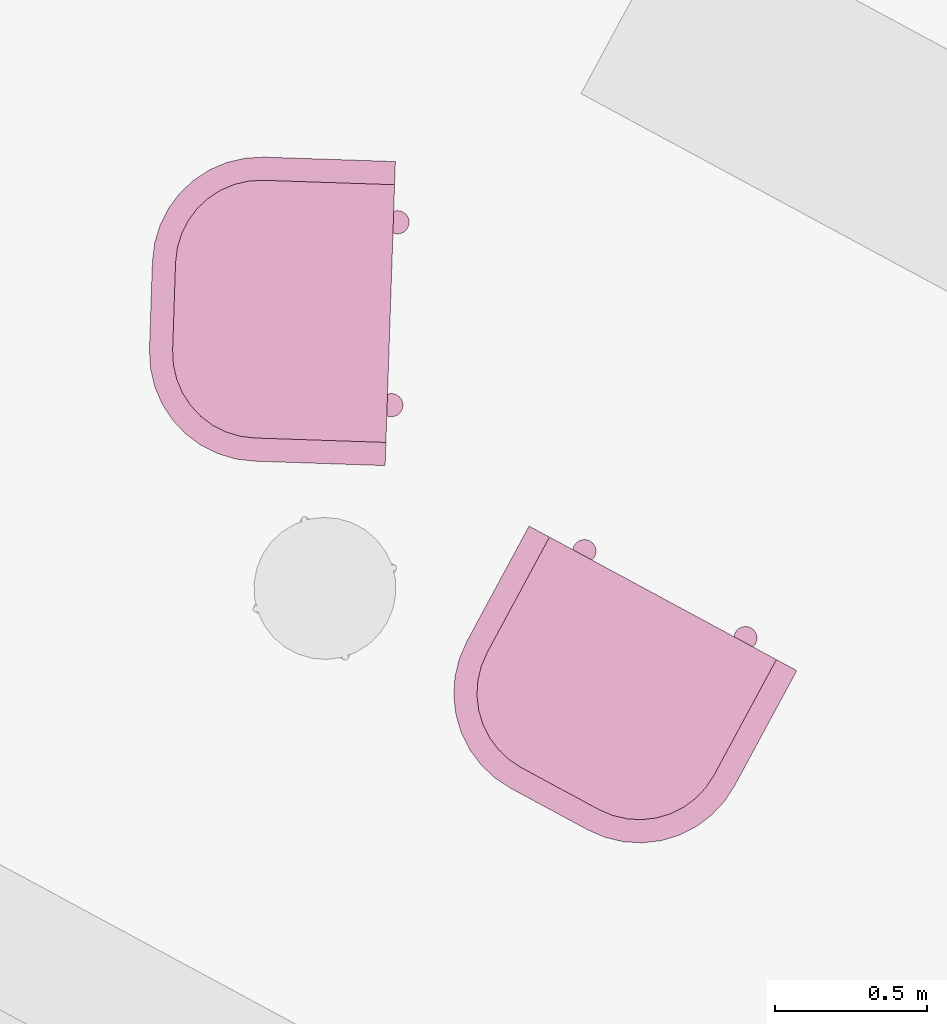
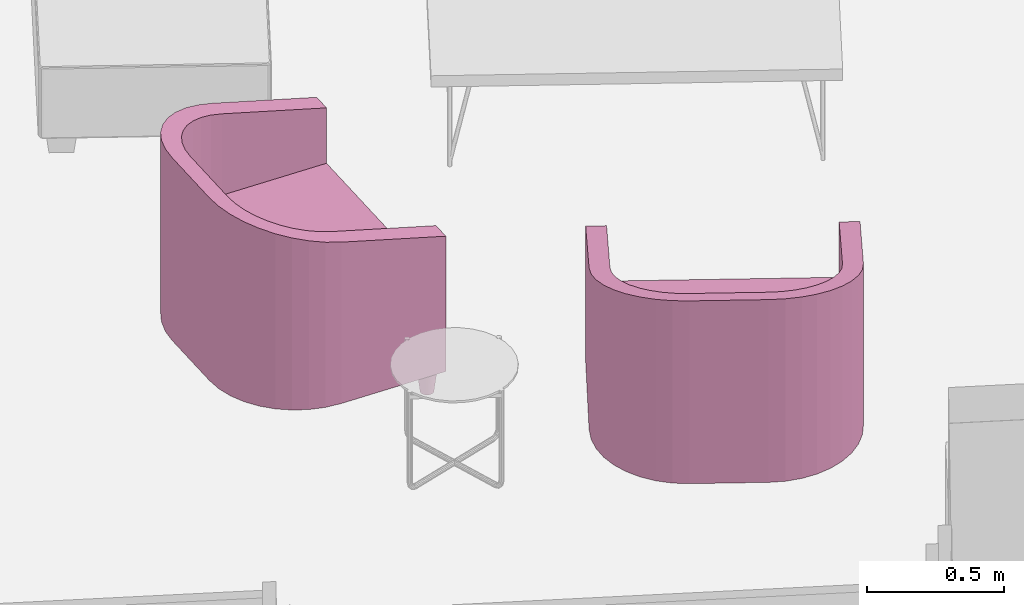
# One storey, part 19 of 36: 2 furnishings.
"""IFC2X3 building model written with IfcOpenShell, lengths in metres."""

import ifcopenshell
import ifcopenshell.guid

model = None  # the IFC model being written
_history = None  # IfcOwnerHistory: only IFC2X3 demands one
_inside = {}  # id of a spatial element -> (the spatial element, [elements in it])
_under = {}  # id of a project, library or spatial element -> (it, [spatial elements below it])
_declared = {}  # id of a project -> (the project, [libraries it declares])
_typed = {}  # id of a type object -> (the type object, [elements of that type])
_made_of = {}  # id of a material, layer set ... -> (it, [elements and type objects made of it])


def new_model(schema):
    """Start an empty IFC model of exactly this schema.

    Asked for "IFC4X3", IfcOpenShell would pick the latest addendum, in which some entities
    have other attributes; the version numbers below select the first issue.
    IFC2X3 requires an IfcOwnerHistory on every rooted entity: one is made here for all.
    """
    global model, _history
    if schema == "IFC4X3":
        model = ifcopenshell.file(schema_version=(4, 3, 0, 0))
    else:
        model = ifcopenshell.file(schema=schema)
    _inside.clear()
    _under.clear()
    _declared.clear()
    _typed.clear()
    _made_of.clear()
    _history = None
    if model.schema == "IFC2X3":
        org = make("IfcOrganization", Name="unknown")
        user = make(
            "IfcPersonAndOrganization",
            ThePerson=make("IfcPerson", FamilyName="unknown"),
            TheOrganization=org,
        )
        app = make(
            "IfcApplication",
            ApplicationDeveloper=org,
            Version="unknown",
            ApplicationFullName="unknown",
            ApplicationIdentifier="unknown",
        )
        _history = make(
            "IfcOwnerHistory",
            OwningUser=user,
            OwningApplication=app,
            ChangeAction="ADDED",
            CreationDate=0,
        )
    return model


def make(cls, **values):
    """One entity of the class cls with the attributes given. An attribute that is None is left unset."""
    return model.create_entity(
        cls, **{name: value for name, value in values.items() if value is not None}
    )


def entity(cls, *values):
    """Any entity or typed value of the class cls, its attributes in the order of the schema. None: left unset."""
    e = model.create_entity(cls)
    for i, value in enumerate(values):
        if value is not None:
            e[i] = value
    return e


def rooted(cls, **values):
    """An entity with a GlobalId (a new one), such as an element, a storey or a relation."""
    return make(cls, GlobalId=ifcopenshell.guid.new(), OwnerHistory=_history, **values)


def si_unit(unit_type, name, prefix=None):
    """IfcSIUnit, for example si_unit("LENGTHUNIT", "METRE", prefix="MILLI")."""
    return make("IfcSIUnit", UnitType=unit_type, Prefix=prefix, Name=name)


def converted_unit(unit_type, name, factor, base, dimensions=None, offset=None):
    """IfcConversionBasedUnit, such as the inch: factor (a typed value) times the base unit."""
    return make(
        "IfcConversionBasedUnit"
        if offset is None
        else "IfcConversionBasedUnitWithOffset",
        ConversionOffset=offset,
        Dimensions=None
        if dimensions is None
        else entity("IfcDimensionalExponents", *dimensions),
        UnitType=unit_type,
        Name=name,
        ConversionFactor=make(
            "IfcMeasureWithUnit", ValueComponent=factor, UnitComponent=base
        ),
    )


def derived_unit(unit_type, elements):
    """IfcDerivedUnit: a product of units, each with its exponent."""
    return make(
        "IfcDerivedUnit",
        Elements=[
            make("IfcDerivedUnitElement", Unit=unit, Exponent=power)
            for unit, power in elements
        ],
        UnitType=unit_type,
    )


def money_unit(currency):
    """IfcMonetaryUnit."""
    return make("IfcMonetaryUnit", Currency=currency)


def assignment(units):
    """IfcUnitAssignment: the units of a project."""
    return None if units is None else make("IfcUnitAssignment", Units=units)


def point(xyz):
    """IfcCartesianPoint."""
    return None if xyz is None else make("IfcCartesianPoint", Coordinates=xyz)


def direction(xyz):
    """IfcDirection."""
    return None if xyz is None else make("IfcDirection", DirectionRatios=xyz)


def frame(location, z_axis=None, x_axis=None):
    """IfcAxis2Placement3D, a coordinate frame: its origin and axes. An axis left out is left unset."""
    return make(
        "IfcAxis2Placement3D",
        Location=point(location),
        Axis=direction(z_axis),
        RefDirection=direction(x_axis),
    )


def origin_with_axes():
    """The frame at (0, 0, 0) with the z axis (0, 0, 1) and the x axis (1, 0, 0) written out."""
    return frame((0.0, 0.0, 0.0), z_axis=(0.0, 0.0, 1.0), x_axis=(1.0, 0.0, 0.0))


def place(relative_to, where):
    """IfcLocalPlacement: puts the frame where relative to a parent placement (None: the world)."""
    return make(
        "IfcLocalPlacement", PlacementRelTo=relative_to, RelativePlacement=where
    )


def context(
    kind, dimensions, precision=None, world=None, true_north=None, identifier=None
):
    """IfcGeometricRepresentationContext, for example the 3D "Model" context."""
    return make(
        "IfcGeometricRepresentationContext",
        ContextIdentifier=identifier,
        ContextType=kind,
        CoordinateSpaceDimension=dimensions,
        Precision=precision,
        WorldCoordinateSystem=world,
        TrueNorth=true_north,
    )


def subcontext(parent, identifier, kind, view, scale=None):
    """IfcGeometricRepresentationSubContext, for example "Body" below "Model"."""
    return make(
        "IfcGeometricRepresentationSubContext",
        ContextIdentifier=identifier,
        ContextType=kind,
        ParentContext=parent,
        TargetScale=scale,
        TargetView=view,
    )


def project(units=None, contexts=None):
    """IfcProject with its units and contexts."""
    return rooted(
        "IfcProject",
        Name="project",
        RepresentationContexts=contexts,
        UnitsInContext=assignment(units),
    )


def spatial(cls, under=None, at=None, **own):
    """A site, building, storey or space (cls), placed at a placement, below another one or the project."""
    s = rooted(cls, ObjectPlacement=at, **own)
    if under is not None:
        _under.setdefault(under.id(), (under, []))[1].append(s)
    return s


def faces_of(points, faces, orient=None, outer=None):
    """IfcFace entities. A face is a list of loops; a loop is a list of indices into points, from 0.

    orient and outer hold one flag for each loop. By default every Orientation is true, the
    first loop of a face is its IfcFaceOuterBound and the others are IfcFaceBound.
    """
    made = []
    for i, loops in enumerate(faces):
        bounds = []
        for j, loop in enumerate(loops):
            is_outer = j == 0 if outer is None else outer[i][j]
            bounds.append(
                make(
                    "IfcFaceOuterBound" if is_outer else "IfcFaceBound",
                    Bound=make("IfcPolyLoop", Polygon=[points[k] for k in loop]),
                    Orientation=True if orient is None else orient[i][j],
                )
            )
        made.append(make("IfcFace", Bounds=bounds))
    return made


def faceted_brep(points, faces, orient=None, outer=None, voids=None):
    """IfcFacetedBrep: a solid bounded by flat faces; with voids (closed shells), ...WithVoids."""
    shared = [point(p) for p in points]
    hull = make("IfcClosedShell", CfsFaces=faces_of(shared, faces, orient, outer))
    if voids is None:
        return make("IfcFacetedBrep", Outer=hull)
    return make(
        "IfcFacetedBrepWithVoids",
        Outer=hull,
        Voids=[
            make(cls, CfsFaces=faces_of(shared, fs, o, b)) for cls, fs, o, b in voids
        ],
    )


def shape(context_of_items, identifier, shape_type, items):
    """IfcShapeRepresentation: the items that make up one representation, for example the "Body"."""
    return make(
        "IfcShapeRepresentation",
        ContextOfItems=context_of_items,
        RepresentationIdentifier=identifier,
        RepresentationType=shape_type,
        Items=items,
    )


def source(mapping_origin, context_of_items, identifier, shape_type, items):
    """IfcRepresentationMap: a shape defined once, which mapped items show again and again."""
    return make(
        "IfcRepresentationMap",
        MappingOrigin=mapping_origin,
        MappedRepresentation=shape(context_of_items, identifier, shape_type, items),
    )


def transform(
    local_origin,
    x_axis=None,
    y_axis=None,
    z_axis=None,
    scale=None,
    scale2=None,
    scale3=None,
    uniform=True,
):
    """IfcCartesianTransformationOperator3D, or its non-uniform kind. x_axis, y_axis, z_axis: its Axis1, 2, 3."""
    if uniform:
        return make(
            "IfcCartesianTransformationOperator3D",
            Axis1=direction(x_axis),
            Axis2=direction(y_axis),
            LocalOrigin=point(local_origin),
            Scale=scale,
            Axis3=direction(z_axis),
        )
    return make(
        "IfcCartesianTransformationOperator3DnonUniform",
        Axis1=direction(x_axis),
        Axis2=direction(y_axis),
        LocalOrigin=point(local_origin),
        Scale=scale,
        Axis3=direction(z_axis),
        Scale2=scale2,
        Scale3=scale3,
    )


def mapped(mapping_source, mapping_target):
    """IfcMappedItem: shows the shape of a source again, moved by a transform."""
    return make(
        "IfcMappedItem", MappingSource=mapping_source, MappingTarget=mapping_target
    )


def made_of(thing, what):
    """Note that an element or type object is made of a material, layer set ...; save() writes the relation."""
    if what is not None:
        _made_of.setdefault(what.id(), (what, []))[1].append(thing)
    return thing


def type_object(cls, material=None, **own):
    """A type object (cls), such as IfcWallType, which elements share."""
    return made_of(rooted(cls, **own), material)


def element(
    cls,
    number,
    at=None,
    inside=None,
    cuts=None,
    type_object=None,
    material=None,
    context=None,
    identifier="Body",
    shape_type=None,
    held_by="IfcProductDefinitionShape",
    body=None,
    shapes=None,
    **own,
):
    """One element of the class cls, such as IfcWall. Its Tag is "e" and its number.

    at: its placement. inside: the storey or other place that contains it. cuts: it is an
    opening in that element (IfcRelVoidsElement). A single representation is given by context,
    identifier, shape_type and body (its items); several are given by shapes. held_by: the class
    of the entity that holds the representations. save() writes the other relations.
    """
    e = rooted(cls, Tag="e%d" % number, ObjectPlacement=at, **own)
    if body is not None:
        shapes = [shape(context, identifier, shape_type, body)]
    if shapes is not None:
        e.Representation = make(held_by, Representations=shapes)
    if inside is not None:
        _inside.setdefault(inside.id(), (inside, []))[1].append(e)
    if cuts is not None:
        rooted(
            "IfcRelVoidsElement", RelatingBuildingElement=cuts, RelatedOpeningElement=e
        )
    if type_object is not None:
        _typed.setdefault(type_object.id(), (type_object, []))[1].append(e)
    return made_of(e, material)


def aggregate(whole, parts):
    """IfcRelAggregates: a whole, such as a stair, and the parts it consists of."""
    return rooted("IfcRelAggregates", RelatingObject=whole, RelatedObjects=parts)


def save(model, path):
    """Write the relations noted so far, then the file.

    IfcRelAggregates (storeys below a building ...), IfcRelContainedInSpatialStructure (elements
    in a storey), IfcRelDefinesByType, IfcRelAssociatesMaterial and IfcRelDeclares: one each for
    every whole, place, type object, material and project.
    """
    for whole, parts in _under.values():
        aggregate(whole, parts)
    for where, things in _inside.values():
        rooted(
            "IfcRelContainedInSpatialStructure",
            RelatedElements=things,
            RelatingStructure=where,
        )
    for kind, things in _typed.values():
        rooted("IfcRelDefinesByType", RelatedObjects=things, RelatingType=kind)
    for what, things in _made_of.values():
        rooted("IfcRelAssociatesMaterial", RelatedObjects=things, RelatingMaterial=what)
    for by, libraries in _declared.values():
        rooted("IfcRelDeclares", RelatingContext=by, RelatedDefinitions=libraries)
    model.write(path)


model = new_model("IFC2X3")

# Units and contexts
model_context = context("Model", 3, precision=1e-05, world=origin_with_axes(), true_north=direction((0.0, 1.0)))
body_context = subcontext(model_context, "Body", "Model", "MODEL_VIEW")
ifc_project = project(units=[si_unit("LENGTHUNIT", "METRE"), si_unit("AREAUNIT", "SQUARE_METRE"), si_unit("VOLUMEUNIT", "CUBIC_METRE"), converted_unit("PLANEANGLEUNIT", "DEGREE", entity("IfcPlaneAngleMeasure", 0.0174532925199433), si_unit("PLANEANGLEUNIT", "RADIAN"), dimensions=[0, 0, 0, 0, 0, 0, 0]), money_unit("EUR"), converted_unit("TIMEUNIT", "Year", entity("IfcTimeMeasure", 31556926.0), si_unit("TIMEUNIT", "SECOND"), dimensions=[0, 0, 1, 0, 0, 0, 0]), si_unit("MASSUNIT", "GRAM", prefix="KILO"), si_unit("THERMODYNAMICTEMPERATUREUNIT", "DEGREE_CELSIUS"), si_unit("LUMINOUSINTENSITYUNIT", "LUMEN"), si_unit("ENERGYUNIT", "JOULE", prefix="MEGA"), derived_unit("THERMALCONDUCTANCEUNIT", [(si_unit("POWERUNIT", "WATT"), 1), (si_unit("LENGTHUNIT", "METRE"), -1), (si_unit("THERMODYNAMICTEMPERATUREUNIT", "KELVIN"), -1)]), derived_unit("SPECIFICHEATCAPACITYUNIT", [(si_unit("ENERGYUNIT", "JOULE"), 1), (si_unit("MASSUNIT", "GRAM", prefix="KILO"), -1), (si_unit("THERMODYNAMICTEMPERATUREUNIT", "KELVIN"), -1)]), derived_unit("MASSDENSITYUNIT", [(si_unit("MASSUNIT", "GRAM", prefix="KILO"), 1), (si_unit("VOLUMEUNIT", "CUBIC_METRE"), -1)])], contexts=[model_context])

# Site, building, storey
site_placement = place(None, frame((-3.949935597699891, 1.740105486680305, 0.0), z_axis=(0.0, 0.0, 1.0), x_axis=(0.8799804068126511, -0.475009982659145, 0.0)))
site = spatial("IfcSite", under=ifc_project, at=site_placement, Name="Gelände", CompositionType="ELEMENT")
building_placement = place(site_placement, origin_with_axes())
building = spatial("IfcBuilding", under=site, at=building_placement, Name="Gebäude", CompositionType="ELEMENT")
storey_placement = place(building_placement, origin_with_axes())
storey = spatial("IfcBuildingStorey", under=building, at=storey_placement, Name="Erdgeschoss", CompositionType="ELEMENT", Elevation=0.0)

# Furnishings
furniture_type = type_object("IfcFurnitureType", Name="bucket chair (1)", AssemblyPlace="NOTDEFINED")
shared_shape = source(origin_with_axes(), body_context, "Body", "Brep", [
    faceted_brep([(-0.47421411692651, 0.73188933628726, 0.0), (-0.4867211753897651, 0.72968400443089, 0.1016), (-0.4873, 0.7363000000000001, 0.1016), (-0.4746, 0.7363000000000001, 0.0), (-0.473068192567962, 0.7276126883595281, 0.0), (-0.485002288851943, 0.7232690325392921, 0.1016), (-0.482195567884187, 0.71725, 0.1016), (-0.478386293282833, 0.711809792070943, 0.1016), (-0.4736902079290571, 0.707113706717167, 0.1016), (-0.4682499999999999, 0.7033044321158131, 0.1016), (-0.462230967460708, 0.700497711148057, 0.1016), (-0.45581599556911, 0.698778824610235, 0.1016), (-0.4492, 0.6982000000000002, 0.1016), (-0.44258400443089, 0.698778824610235, 0.1016), (-0.436169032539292, 0.700497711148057, 0.1016), (-0.43015, 0.703304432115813, 0.1016), (-0.4247097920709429, 0.707113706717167, 0.1016), (-0.420013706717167, 0.711809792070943, 0.1016), (-0.4162044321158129, 0.71725, 0.1016), (-0.4133977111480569, 0.7232690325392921, 0.1016), (-0.4116788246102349, 0.72968400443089, 0.1016), (-0.4111, 0.7363000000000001, 0.1016), (-0.4116788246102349, 0.7429159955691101, 0.1016), (-0.4133977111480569, 0.749330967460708, 0.1016), (-0.4162044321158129, 0.7553500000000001, 0.1016), (-0.420013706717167, 0.7607902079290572, 0.1016), (-0.4247097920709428, 0.7654862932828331, 0.1016), (-0.43015, 0.7692955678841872, 0.1016), (-0.436169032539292, 0.7721022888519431, 0.1016), (-0.44258400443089, 0.7738211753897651, 0.1016), (-0.4492, 0.7744000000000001, 0.1016), (-0.45581599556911, 0.7738211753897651, 0.1016), (-0.462230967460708, 0.7721022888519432, 0.1016), (-0.46825, 0.7692955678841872, 0.1016), (-0.4736902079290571, 0.7654862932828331, 0.1016), (-0.4783862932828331, 0.7607902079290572, 0.1016), (-0.4821955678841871, 0.7553500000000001, 0.1016), (-0.4850022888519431, 0.749330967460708, 0.1016), (-0.4867211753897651, 0.7429159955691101, 0.1016), (-0.4742141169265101, 0.7407106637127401, 0.0), (-0.4730681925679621, 0.744987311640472, 0.0), (-0.4711970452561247, 0.7490000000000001, 0.0), (-0.468657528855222, 0.7526268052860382, 0.0), (-0.4655268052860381, 0.7557575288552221, 0.0), (-0.4619, 0.7582970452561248, 0.0), (-0.457887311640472, 0.7601681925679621, 0.0), (-0.45361066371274, 0.7613141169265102, 0.0), (-0.4492, 0.7617, 0.0), (-0.44478933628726, 0.7613141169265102, 0.0), (-0.440512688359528, 0.7601681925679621, 0.0), (-0.4365, 0.7582970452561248, 0.0), (-0.4328731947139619, 0.7557575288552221, 0.0), (-0.429742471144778, 0.7526268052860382, 0.0), (-0.4272029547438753, 0.7490000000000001, 0.0), (-0.4253318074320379, 0.744987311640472, 0.0), (-0.4241858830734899, 0.7407106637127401, 0.0), (-0.4238, 0.7363000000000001, 0.0), (-0.4241858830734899, 0.73188933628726, 0.0), (-0.4253318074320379, 0.7276126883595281, 0.0), (-0.4272029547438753, 0.7236000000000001, 0.0), (-0.429742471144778, 0.719973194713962, 0.0), (-0.4328731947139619, 0.7168424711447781, 0.0), (-0.4365, 0.7143029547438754, 0.0), (-0.440512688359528, 0.712431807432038, 0.0), (-0.44478933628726, 0.71128588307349, 0.0), (-0.4492, 0.7109000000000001, 0.0), (-0.45361066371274, 0.71128588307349, 0.0), (-0.457887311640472, 0.712431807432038, 0.0), (-0.4619, 0.7143029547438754, 0.0), (-0.4655268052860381, 0.7168424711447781, 0.0), (-0.468657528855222, 0.719973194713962, 0.0), (-0.4711970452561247, 0.7236000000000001, 0.0)], [[[0, 1, 2, 3]], [[4, 5, 1, 0]], [[1, 5, 6, 7, 8, 9, 10, 11, 12, 13, 14, 15, 16, 17, 18, 19, 20, 21, 22, 23, 24, 25, 26, 27, 28, 29, 30, 31, 32, 33, 34, 35, 36, 37, 38, 2]], [[3, 2, 38, 39]], [[0, 3, 39, 40, 41, 42, 43, 44, 45, 46, 47, 48, 49, 50, 51, 52, 53, 54, 55, 56, 57, 58, 59, 60, 61, 62, 63, 64, 65, 66, 67, 68, 69, 70, 71, 4]], [[71, 6, 5, 4]], [[70, 7, 6, 71]], [[69, 8, 7, 70]], [[68, 9, 8, 69]], [[67, 10, 9, 68]], [[66, 11, 10, 67]], [[65, 12, 11, 66]], [[64, 13, 12, 65]], [[63, 14, 13, 64]], [[62, 15, 14, 63]], [[61, 16, 15, 62]], [[60, 17, 16, 61]], [[59, 18, 17, 60]], [[58, 19, 18, 59]], [[57, 20, 19, 58]], [[56, 21, 20, 57]], [[55, 22, 21, 56]], [[54, 23, 22, 55]], [[53, 24, 23, 54]], [[52, 25, 24, 53]], [[51, 26, 25, 52]], [[50, 27, 26, 51]], [[49, 28, 27, 50]], [[48, 29, 28, 49]], [[47, 30, 29, 48]], [[46, 31, 30, 47]], [[45, 32, 31, 46]], [[44, 33, 32, 45]], [[43, 34, 33, 44]], [[42, 35, 34, 43]], [[41, 36, 35, 42]], [[40, 37, 36, 41]], [[39, 38, 37, 40]]]),
    faceted_brep([(0.42418588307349, 0.73188933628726, 0.0), (0.4116788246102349, 0.72968400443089, 0.1016), (0.4111, 0.7363000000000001, 0.1016), (0.4238, 0.7363000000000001, 0.0), (0.425331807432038, 0.7276126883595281, 0.0), (0.413397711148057, 0.7232690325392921, 0.1016), (0.4162044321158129, 0.71725, 0.1016), (0.420013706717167, 0.711809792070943, 0.1016), (0.4247097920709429, 0.707113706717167, 0.1016), (0.43015, 0.7033044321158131, 0.1016), (0.436169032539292, 0.700497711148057, 0.1016), (0.44258400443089, 0.698778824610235, 0.1016), (0.4492, 0.6982000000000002, 0.1016), (0.45581599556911, 0.698778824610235, 0.1016), (0.462230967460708, 0.700497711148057, 0.1016), (0.4682499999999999, 0.703304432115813, 0.1016), (0.4736902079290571, 0.707113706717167, 0.1016), (0.478386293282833, 0.711809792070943, 0.1016), (0.482195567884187, 0.71725, 0.1016), (0.4850022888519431, 0.7232690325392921, 0.1016), (0.4867211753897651, 0.72968400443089, 0.1016), (0.4873, 0.7363000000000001, 0.1016), (0.4867211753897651, 0.7429159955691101, 0.1016), (0.4850022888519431, 0.749330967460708, 0.1016), (0.482195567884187, 0.7553500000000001, 0.1016), (0.478386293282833, 0.7607902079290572, 0.1016), (0.4736902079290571, 0.7654862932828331, 0.1016), (0.4682499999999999, 0.7692955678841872, 0.1016), (0.462230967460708, 0.7721022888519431, 0.1016), (0.45581599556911, 0.7738211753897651, 0.1016), (0.4492, 0.7744000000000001, 0.1016), (0.44258400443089, 0.7738211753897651, 0.1016), (0.436169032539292, 0.7721022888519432, 0.1016), (0.43015, 0.7692955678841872, 0.1016), (0.4247097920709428, 0.7654862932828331, 0.1016), (0.4200137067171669, 0.7607902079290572, 0.1016), (0.4162044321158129, 0.7553500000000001, 0.1016), (0.4133977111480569, 0.749330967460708, 0.1016), (0.4116788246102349, 0.7429159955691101, 0.1016), (0.4241858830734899, 0.7407106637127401, 0.0), (0.4253318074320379, 0.744987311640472, 0.0), (0.4272029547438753, 0.7490000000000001, 0.0), (0.4297424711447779, 0.7526268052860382, 0.0), (0.4328731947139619, 0.7557575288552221, 0.0), (0.4365, 0.7582970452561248, 0.0), (0.440512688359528, 0.7601681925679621, 0.0), (0.44478933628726, 0.7613141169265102, 0.0), (0.4492, 0.7617, 0.0), (0.45361066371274, 0.7613141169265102, 0.0), (0.457887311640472, 0.7601681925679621, 0.0), (0.4619, 0.7582970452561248, 0.0), (0.4655268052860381, 0.7557575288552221, 0.0), (0.468657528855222, 0.7526268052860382, 0.0), (0.4711970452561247, 0.7490000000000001, 0.0), (0.4730681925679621, 0.744987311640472, 0.0), (0.4742141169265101, 0.7407106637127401, 0.0), (0.4746, 0.7363000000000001, 0.0), (0.4742141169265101, 0.73188933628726, 0.0), (0.4730681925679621, 0.7276126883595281, 0.0), (0.4711970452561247, 0.7236000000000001, 0.0), (0.468657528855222, 0.719973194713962, 0.0), (0.4655268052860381, 0.7168424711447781, 0.0), (0.4619, 0.7143029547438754, 0.0), (0.457887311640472, 0.712431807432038, 0.0), (0.45361066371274, 0.71128588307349, 0.0), (0.4492, 0.7109000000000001, 0.0), (0.44478933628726, 0.71128588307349, 0.0), (0.440512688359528, 0.712431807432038, 0.0), (0.4365, 0.7143029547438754, 0.0), (0.4328731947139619, 0.7168424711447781, 0.0), (0.429742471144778, 0.719973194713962, 0.0), (0.4272029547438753, 0.7236000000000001, 0.0)], [[[0, 1, 2, 3]], [[4, 5, 1, 0]], [[1, 5, 6, 7, 8, 9, 10, 11, 12, 13, 14, 15, 16, 17, 18, 19, 20, 21, 22, 23, 24, 25, 26, 27, 28, 29, 30, 31, 32, 33, 34, 35, 36, 37, 38, 2]], [[3, 2, 38, 39]], [[0, 3, 39, 40, 41, 42, 43, 44, 45, 46, 47, 48, 49, 50, 51, 52, 53, 54, 55, 56, 57, 58, 59, 60, 61, 62, 63, 64, 65, 66, 67, 68, 69, 70, 71, 4]], [[71, 6, 5, 4]], [[70, 7, 6, 71]], [[69, 8, 7, 70]], [[68, 9, 8, 69]], [[67, 10, 9, 68]], [[66, 11, 10, 67]], [[65, 12, 11, 66]], [[64, 13, 12, 65]], [[63, 14, 13, 64]], [[62, 15, 14, 63]], [[61, 16, 15, 62]], [[60, 17, 16, 61]], [[59, 18, 17, 60]], [[58, 19, 18, 59]], [[57, 20, 19, 58]], [[56, 21, 20, 57]], [[55, 22, 21, 56]], [[54, 23, 22, 55]], [[53, 24, 23, 54]], [[52, 25, 24, 53]], [[51, 26, 25, 52]], [[50, 27, 26, 51]], [[49, 28, 27, 50]], [[48, 29, 28, 49]], [[47, 30, 29, 48]], [[46, 31, 30, 47]], [[45, 32, 31, 46]], [[44, 33, 32, 45]], [[43, 34, 33, 44]], [[42, 35, 34, 43]], [[41, 36, 35, 42]], [[40, 37, 36, 41]], [[39, 38, 37, 40]]]),
    faceted_brep([(-0.3258141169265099, 0.7963893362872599, 0.0), (-0.338321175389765, 0.7941840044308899, 0.1016), (-0.3388999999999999, 0.8008, 0.1016), (-0.3261999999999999, 0.8008, 0.0), (-0.3246681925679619, 0.792112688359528, 0.0), (-0.3366022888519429, 0.787769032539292, 0.1016), (-0.333795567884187, 0.78175, 0.1016), (-0.3299862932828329, 0.7763097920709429, 0.1016), (-0.325290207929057, 0.7716137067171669, 0.1016), (-0.3198499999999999, 0.767804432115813, 0.1016), (-0.3138309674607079, 0.7649977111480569, 0.1016), (-0.3074159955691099, 0.7632788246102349, 0.1016), (-0.3007999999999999, 0.7627, 0.1016), (-0.2941840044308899, 0.7632788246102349, 0.1016), (-0.2877690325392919, 0.7649977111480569, 0.1016), (-0.2817499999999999, 0.7678044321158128, 0.1016), (-0.2763097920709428, 0.7716137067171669, 0.1016), (-0.2716137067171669, 0.7763097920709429, 0.1016), (-0.2678044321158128, 0.78175, 0.1016), (-0.2649977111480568, 0.787769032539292, 0.1016), (-0.2632788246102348, 0.7941840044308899, 0.1016), (-0.2626999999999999, 0.8008, 0.1016), (-0.2632788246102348, 0.80741599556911, 0.1016), (-0.2649977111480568, 0.8138309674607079, 0.1016), (-0.2678044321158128, 0.81985, 0.1016), (-0.2716137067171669, 0.825290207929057, 0.1016), (-0.2763097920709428, 0.829986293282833, 0.1016), (-0.2817499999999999, 0.8337955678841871, 0.1016), (-0.2877690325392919, 0.8366022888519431, 0.1016), (-0.2941840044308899, 0.838321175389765, 0.1016), (-0.3007999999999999, 0.8389, 0.1016), (-0.3074159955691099, 0.838321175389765, 0.1016), (-0.3138309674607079, 0.8366022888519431, 0.1016), (-0.3198499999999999, 0.8337955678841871, 0.1016), (-0.3252902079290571, 0.829986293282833, 0.1016), (-0.329986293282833, 0.825290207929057, 0.1016), (-0.333795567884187, 0.81985, 0.1016), (-0.336602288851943, 0.8138309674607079, 0.1016), (-0.338321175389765, 0.80741599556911, 0.1016), (-0.32581411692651, 0.80521066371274, 0.0), (-0.324668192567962, 0.8094873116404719, 0.0), (-0.3227970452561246, 0.8135, 0.0), (-0.320257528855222, 0.8171268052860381, 0.0), (-0.317126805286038, 0.820257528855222, 0.0), (-0.3134999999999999, 0.8227970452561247, 0.0), (-0.3094873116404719, 0.824668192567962, 0.0), (-0.3052106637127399, 0.8258141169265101, 0.0), (-0.3007999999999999, 0.8261999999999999, 0.0), (-0.2963893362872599, 0.8258141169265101, 0.0), (-0.2921126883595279, 0.824668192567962, 0.0), (-0.2880999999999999, 0.8227970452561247, 0.0), (-0.2844731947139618, 0.820257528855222, 0.0), (-0.2813424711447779, 0.8171268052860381, 0.0), (-0.2788029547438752, 0.8135, 0.0), (-0.2769318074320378, 0.8094873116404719, 0.0), (-0.2757858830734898, 0.80521066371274, 0.0), (-0.2753999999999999, 0.8008, 0.0), (-0.2757858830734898, 0.7963893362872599, 0.0), (-0.2769318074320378, 0.792112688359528, 0.0), (-0.2788029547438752, 0.7881, 0.0), (-0.2813424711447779, 0.7844731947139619, 0.0), (-0.2844731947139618, 0.781342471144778, 0.0), (-0.2880999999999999, 0.7788029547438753, 0.0), (-0.2921126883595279, 0.7769318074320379, 0.0), (-0.2963893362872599, 0.77578588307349, 0.0), (-0.3007999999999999, 0.7754, 0.0), (-0.3052106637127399, 0.77578588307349, 0.0), (-0.3094873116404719, 0.7769318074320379, 0.0), (-0.3134999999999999, 0.7788029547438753, 0.0), (-0.317126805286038, 0.781342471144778, 0.0), (-0.3202575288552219, 0.7844731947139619, 0.0), (-0.3227970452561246, 0.7881, 0.0)], [[[0, 1, 2, 3]], [[4, 5, 1, 0]], [[1, 5, 6, 7, 8, 9, 10, 11, 12, 13, 14, 15, 16, 17, 18, 19, 20, 21, 22, 23, 24, 25, 26, 27, 28, 29, 30, 31, 32, 33, 34, 35, 36, 37, 38, 2]], [[3, 2, 38, 39]], [[0, 3, 39, 40, 41, 42, 43, 44, 45, 46, 47, 48, 49, 50, 51, 52, 53, 54, 55, 56, 57, 58, 59, 60, 61, 62, 63, 64, 65, 66, 67, 68, 69, 70, 71, 4]], [[71, 6, 5, 4]], [[70, 7, 6, 71]], [[69, 8, 7, 70]], [[68, 9, 8, 69]], [[67, 10, 9, 68]], [[66, 11, 10, 67]], [[65, 12, 11, 66]], [[64, 13, 12, 65]], [[63, 14, 13, 64]], [[62, 15, 14, 63]], [[61, 16, 15, 62]], [[60, 17, 16, 61]], [[59, 18, 17, 60]], [[58, 19, 18, 59]], [[57, 20, 19, 58]], [[56, 21, 20, 57]], [[55, 22, 21, 56]], [[54, 23, 22, 55]], [[53, 24, 23, 54]], [[52, 25, 24, 53]], [[51, 26, 25, 52]], [[50, 27, 26, 51]], [[49, 28, 27, 50]], [[48, 29, 28, 49]], [[47, 30, 29, 48]], [[46, 31, 30, 47]], [[45, 32, 31, 46]], [[44, 33, 32, 45]], [[43, 34, 33, 44]], [[42, 35, 34, 43]], [[41, 36, 35, 42]], [[40, 37, 36, 41]], [[39, 38, 37, 40]]]),
    faceted_brep([(0.2757858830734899, 0.7963893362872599, 0.0), (0.2632788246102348, 0.7941840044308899, 0.1016), (0.2626999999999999, 0.8008, 0.1016), (0.2753999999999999, 0.8008, 0.0), (0.2769318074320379, 0.792112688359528, 0.0), (0.2649977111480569, 0.787769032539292, 0.1016), (0.2678044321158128, 0.78175, 0.1016), (0.2716137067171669, 0.7763097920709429, 0.1016), (0.2763097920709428, 0.7716137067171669, 0.1016), (0.2817499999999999, 0.767804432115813, 0.1016), (0.2877690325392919, 0.7649977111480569, 0.1016), (0.2941840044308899, 0.7632788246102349, 0.1016), (0.3007999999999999, 0.7627, 0.1016), (0.3074159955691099, 0.7632788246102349, 0.1016), (0.3138309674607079, 0.7649977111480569, 0.1016), (0.3198499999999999, 0.7678044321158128, 0.1016), (0.325290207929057, 0.7716137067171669, 0.1016), (0.3299862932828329, 0.7763097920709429, 0.1016), (0.333795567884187, 0.78175, 0.1016), (0.336602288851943, 0.787769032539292, 0.1016), (0.338321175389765, 0.7941840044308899, 0.1016), (0.3388999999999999, 0.8008, 0.1016), (0.338321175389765, 0.80741599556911, 0.1016), (0.336602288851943, 0.8138309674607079, 0.1016), (0.333795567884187, 0.81985, 0.1016), (0.3299862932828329, 0.825290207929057, 0.1016), (0.3252902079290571, 0.829986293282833, 0.1016), (0.3198499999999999, 0.8337955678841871, 0.1016), (0.3138309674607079, 0.8366022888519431, 0.1016), (0.3074159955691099, 0.838321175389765, 0.1016), (0.3007999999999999, 0.8389, 0.1016), (0.2941840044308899, 0.838321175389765, 0.1016), (0.2877690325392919, 0.8366022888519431, 0.1016), (0.2817499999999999, 0.8337955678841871, 0.1016), (0.2763097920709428, 0.829986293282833, 0.1016), (0.2716137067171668, 0.825290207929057, 0.1016), (0.2678044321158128, 0.81985, 0.1016), (0.2649977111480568, 0.8138309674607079, 0.1016), (0.2632788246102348, 0.80741599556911, 0.1016), (0.2757858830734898, 0.80521066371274, 0.0), (0.2769318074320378, 0.8094873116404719, 0.0), (0.2788029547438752, 0.8135, 0.0), (0.2813424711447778, 0.8171268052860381, 0.0), (0.2844731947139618, 0.820257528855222, 0.0), (0.2880999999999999, 0.8227970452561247, 0.0), (0.2921126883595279, 0.824668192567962, 0.0), (0.2963893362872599, 0.8258141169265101, 0.0), (0.3007999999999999, 0.8261999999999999, 0.0), (0.3052106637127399, 0.8258141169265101, 0.0), (0.3094873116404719, 0.824668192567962, 0.0), (0.3134999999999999, 0.8227970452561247, 0.0), (0.317126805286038, 0.820257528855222, 0.0), (0.3202575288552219, 0.8171268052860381, 0.0), (0.3227970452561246, 0.8135, 0.0), (0.324668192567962, 0.8094873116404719, 0.0), (0.32581411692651, 0.80521066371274, 0.0), (0.3261999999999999, 0.8008, 0.0), (0.32581411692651, 0.7963893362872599, 0.0), (0.324668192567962, 0.792112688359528, 0.0), (0.3227970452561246, 0.7881, 0.0), (0.3202575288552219, 0.7844731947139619, 0.0), (0.317126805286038, 0.781342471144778, 0.0), (0.3134999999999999, 0.7788029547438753, 0.0), (0.3094873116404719, 0.7769318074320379, 0.0), (0.3052106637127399, 0.77578588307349, 0.0), (0.3007999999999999, 0.7754, 0.0), (0.2963893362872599, 0.77578588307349, 0.0), (0.2921126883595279, 0.7769318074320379, 0.0), (0.2880999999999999, 0.7788029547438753, 0.0), (0.2844731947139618, 0.781342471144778, 0.0), (0.2813424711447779, 0.7844731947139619, 0.0), (0.2788029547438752, 0.7881, 0.0)], [[[0, 1, 2, 3]], [[4, 5, 1, 0]], [[1, 5, 6, 7, 8, 9, 10, 11, 12, 13, 14, 15, 16, 17, 18, 19, 20, 21, 22, 23, 24, 25, 26, 27, 28, 29, 30, 31, 32, 33, 34, 35, 36, 37, 38, 2]], [[3, 2, 38, 39]], [[0, 3, 39, 40, 41, 42, 43, 44, 45, 46, 47, 48, 49, 50, 51, 52, 53, 54, 55, 56, 57, 58, 59, 60, 61, 62, 63, 64, 65, 66, 67, 68, 69, 70, 71, 4]], [[71, 6, 5, 4]], [[70, 7, 6, 71]], [[69, 8, 7, 70]], [[68, 9, 8, 69]], [[67, 10, 9, 68]], [[66, 11, 10, 67]], [[65, 12, 11, 66]], [[64, 13, 12, 65]], [[63, 14, 13, 64]], [[62, 15, 14, 63]], [[61, 16, 15, 62]], [[60, 17, 16, 61]], [[59, 18, 17, 60]], [[58, 19, 18, 59]], [[57, 20, 19, 58]], [[56, 21, 20, 57]], [[55, 22, 21, 56]], [[54, 23, 22, 55]], [[53, 24, 23, 54]], [[52, 25, 24, 53]], [[51, 26, 25, 52]], [[50, 27, 26, 51]], [[49, 28, 27, 50]], [[48, 29, 28, 49]], [[47, 30, 29, 48]], [[46, 31, 30, 47]], [[45, 32, 31, 46]], [[44, 33, 32, 45]], [[43, 34, 33, 44]], [[42, 35, 34, 43]], [[41, 36, 35, 42]], [[40, 37, 36, 41]], [[39, 38, 37, 40]]]),
    faceted_brep([(0.5, 0.7871, 0.1016), (0.5, 0.7871, 0.7034971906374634), (0.5, 0.3556, 0.8191172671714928), (0.5, 0.3556, 0.1016), (0.4238, 0.7871, 0.1016), (0.4238, 0.7871, 0.7034971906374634), (0.4238, 0.3556000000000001, 0.8191172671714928), (0.4195552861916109, 0.3070826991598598, 0.8321174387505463), (0.4069501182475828, 0.2600395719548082, 0.8447226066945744), (0.3863674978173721, 0.2159000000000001, 0.8565497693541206), (0.3584328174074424, 0.176005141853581, 0.8672395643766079), (0.323994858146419, 0.1415671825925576, 0.8764671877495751), (0.2841, 0.1136325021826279, 0.8839522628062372), (0.2399604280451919, 0.09304988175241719, 0.8894673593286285), (0.1929173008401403, 0.08044471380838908, 0.8928449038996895), (0.1444, 0.0762, 0.8939822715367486), (-0.1444000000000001, 0.07620000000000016, 0.8939822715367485), (-0.1929173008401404, 0.08044471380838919, 0.8928449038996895), (-0.2399604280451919, 0.0930498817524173, 0.8894673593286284), (-0.2841, 0.1136325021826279, 0.8839522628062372), (-0.3239948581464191, 0.1415671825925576, 0.8764671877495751), (-0.3584328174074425, 0.176005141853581, 0.8672395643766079), (-0.3863674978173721, 0.2159000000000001, 0.8565497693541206), (-0.4069501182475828, 0.2600395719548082, 0.8447226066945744), (-0.4195552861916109, 0.3070826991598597, 0.8321174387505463), (-0.4238, 0.3556, 0.8191172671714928), (-0.4238, 0.7871, 0.7034971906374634), (-0.5, 0.7871, 0.7034971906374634), (-0.4999999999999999, 0.3555999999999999, 0.8191172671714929), (-0.494597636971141, 0.2938507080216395, 0.8356629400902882), (-0.4785546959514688, 0.2339776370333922, 0.8517058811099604), (-0.4523586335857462, 0.1778, 0.8667586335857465), (-0.4168054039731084, 0.1270247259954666, 0.8803638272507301), (-0.3729752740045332, 0.08319459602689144, 0.8921080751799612), (-0.3221999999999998, 0.04764136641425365, 0.9016345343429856), (-0.2660223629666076, 0.02144530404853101, 0.9086537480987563), (-0.2061492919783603, 0.005402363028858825, 0.9129524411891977), (-0.1444, 0.0, 0.9144000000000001), (0.0, 0.0, 0.9144000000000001), (0.1444000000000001, 0.0, 0.9144000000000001), (0.2061492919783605, 0.005402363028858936, 0.9129524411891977), (0.2660223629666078, 0.02144530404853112, 0.9086537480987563), (0.3222, 0.04764136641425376, 0.9016345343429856), (0.3729752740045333, 0.08319459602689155, 0.892108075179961), (0.4168054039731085, 0.1270247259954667, 0.8803638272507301), (0.4523586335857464, 0.1778000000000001, 0.8667586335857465), (0.4785546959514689, 0.2339776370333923, 0.8517058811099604), (0.4945976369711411, 0.2938507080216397, 0.8356629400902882), (0.4945976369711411, 0.2938507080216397, 0.1016), (0.4785546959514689, 0.2339776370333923, 0.1016), (0.4523586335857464, 0.1778000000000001, 0.1016), (0.4168054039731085, 0.1270247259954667, 0.1016), (0.3729752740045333, 0.08319459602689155, 0.1016), (0.3222, 0.04764136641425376, 0.1016), (0.2660223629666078, 0.02144530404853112, 0.1016), (0.2061492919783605, 0.005402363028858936, 0.1016), (0.1444000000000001, 0.0, 0.1016), (0.0, 0.0, 0.1016), (-0.1444, 0.0, 0.1016), (-0.2061492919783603, 0.005402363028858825, 0.1016), (-0.2660223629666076, 0.02144530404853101, 0.1016), (-0.3221999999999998, 0.04764136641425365, 0.1016), (-0.3729752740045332, 0.08319459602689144, 0.1016), (-0.4168054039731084, 0.1270247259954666, 0.1016), (-0.4523586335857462, 0.1778, 0.1016), (-0.4785546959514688, 0.2339776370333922, 0.1016), (-0.494597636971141, 0.2938507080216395, 0.1016), (-0.4999999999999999, 0.3555999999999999, 0.1016), (-0.5, 0.7871, 0.1016), (-0.4238, 0.7871, 0.1016), (-0.4238, 0.3556, 0.1016), (-0.4195552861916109, 0.3070826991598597, 0.1016), (-0.4069501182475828, 0.2600395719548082, 0.1016), (-0.3863674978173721, 0.2159000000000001, 0.1016), (-0.3584328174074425, 0.176005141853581, 0.1016), (-0.3239948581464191, 0.1415671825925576, 0.1016), (-0.2841, 0.1136325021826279, 0.1016), (-0.2399604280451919, 0.0930498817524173, 0.1016), (-0.1929173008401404, 0.08044471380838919, 0.1016), (-0.1444000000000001, 0.07620000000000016, 0.1016), (0.1444, 0.0762, 0.1016), (0.1929173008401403, 0.08044471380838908, 0.1016), (0.2399604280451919, 0.09304988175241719, 0.1016), (0.2841, 0.1136325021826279, 0.1016), (0.323994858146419, 0.1415671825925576, 0.1016), (0.3584328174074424, 0.176005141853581, 0.1016), (0.3863674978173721, 0.2159000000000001, 0.1016), (0.4069501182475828, 0.2600395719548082, 0.1016), (0.4195552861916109, 0.3070826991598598, 0.1016), (0.4238, 0.3556000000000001, 0.1016)], [[[0, 1, 2, 3]], [[4, 5, 1, 0]], [[1, 5, 6, 7, 8, 9, 10, 11, 12, 13, 14, 15, 16, 17, 18, 19, 20, 21, 22, 23, 24, 25, 26, 27, 28, 29, 30, 31, 32, 33, 34, 35, 36, 37, 38, 39, 40, 41, 42, 43, 44, 45, 46, 47, 2]], [[3, 2, 47, 48]], [[0, 3, 48, 49, 50, 51, 52, 53, 54, 55, 56, 57, 58, 59, 60, 61, 62, 63, 64, 65, 66, 67, 68, 69, 70, 71, 72, 73, 74, 75, 76, 77, 78, 79, 80, 81, 82, 83, 84, 85, 86, 87, 88, 89, 4]], [[89, 6, 5, 4]], [[88, 7, 6, 89]], [[87, 8, 7, 88]], [[86, 9, 8, 87]], [[85, 10, 9, 86]], [[84, 11, 10, 85]], [[83, 12, 11, 84]], [[82, 13, 12, 83]], [[81, 14, 13, 82]], [[80, 15, 14, 81]], [[79, 16, 15, 80]], [[78, 17, 16, 79]], [[77, 18, 17, 78]], [[76, 19, 18, 77]], [[75, 20, 19, 76]], [[74, 21, 20, 75]], [[73, 22, 21, 74]], [[72, 23, 22, 73]], [[71, 24, 23, 72]], [[70, 25, 24, 71]], [[69, 26, 25, 70]], [[68, 27, 26, 69]], [[67, 28, 27, 68]], [[66, 29, 28, 67]], [[65, 30, 29, 66]], [[64, 31, 30, 65]], [[63, 32, 31, 64]], [[62, 33, 32, 63]], [[61, 34, 33, 62]], [[60, 35, 34, 61]], [[59, 36, 35, 60]], [[58, 37, 36, 59]], [[57, 38, 37, 58]], [[56, 39, 38, 57]], [[55, 40, 39, 56]], [[54, 41, 40, 55]], [[53, 42, 41, 54]], [[52, 43, 42, 53]], [[51, 44, 43, 52]], [[50, 45, 44, 51]], [[49, 46, 45, 50]], [[48, 47, 46, 49]]]),
    faceted_brep([(0.4238, 0.7871, 0.1016), (0.4238, 0.7871, 0.4572000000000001), (0.4238, 0.3556000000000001, 0.4572000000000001), (0.4238, 0.3556000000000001, 0.1016), (-0.4238, 0.7871, 0.1016), (-0.4238, 0.7871, 0.4572000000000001), (-0.4238, 0.3556, 0.4572000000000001), (-0.4195552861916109, 0.3070826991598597, 0.4572000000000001), (-0.4069501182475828, 0.2600395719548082, 0.4572000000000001), (-0.3863674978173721, 0.2159000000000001, 0.4572000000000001), (-0.3584328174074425, 0.176005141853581, 0.4572000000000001), (-0.3239948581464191, 0.1415671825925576, 0.4572000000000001), (-0.2841, 0.1136325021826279, 0.4572000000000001), (-0.2399604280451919, 0.0930498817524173, 0.4572000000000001), (-0.1929173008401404, 0.08044471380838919, 0.4572000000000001), (-0.1444000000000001, 0.07620000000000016, 0.4572000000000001), (0.1444, 0.0762, 0.4572000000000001), (0.1929173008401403, 0.08044471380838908, 0.4572000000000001), (0.2399604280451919, 0.09304988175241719, 0.4572000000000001), (0.2841, 0.1136325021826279, 0.4572000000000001), (0.323994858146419, 0.1415671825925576, 0.4572000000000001), (0.3584328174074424, 0.176005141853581, 0.4572000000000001), (0.3863674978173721, 0.2159000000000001, 0.4572000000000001), (0.4069501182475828, 0.2600395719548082, 0.4572000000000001), (0.4195552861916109, 0.3070826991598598, 0.4572000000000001), (0.4195552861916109, 0.3070826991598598, 0.1016), (0.4069501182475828, 0.2600395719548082, 0.1016), (0.3863674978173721, 0.2159000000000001, 0.1016), (0.3584328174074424, 0.176005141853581, 0.1016), (0.323994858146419, 0.1415671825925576, 0.1016), (0.2841, 0.1136325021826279, 0.1016), (0.2399604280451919, 0.09304988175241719, 0.1016), (0.1929173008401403, 0.08044471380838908, 0.1016), (0.1444, 0.0762, 0.1016), (-0.1444000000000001, 0.07620000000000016, 0.1016), (-0.1929173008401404, 0.08044471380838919, 0.1016), (-0.2399604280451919, 0.0930498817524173, 0.1016), (-0.2841, 0.1136325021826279, 0.1016), (-0.3239948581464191, 0.1415671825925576, 0.1016), (-0.3584328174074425, 0.176005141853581, 0.1016), (-0.3863674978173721, 0.2159000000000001, 0.1016), (-0.4069501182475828, 0.2600395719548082, 0.1016), (-0.4195552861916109, 0.3070826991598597, 0.1016), (-0.4238, 0.3556, 0.1016)], [[[0, 1, 2, 3]], [[4, 5, 1, 0]], [[1, 5, 6, 7, 8, 9, 10, 11, 12, 13, 14, 15, 16, 17, 18, 19, 20, 21, 22, 23, 24, 2]], [[3, 2, 24, 25]], [[0, 3, 25, 26, 27, 28, 29, 30, 31, 32, 33, 34, 35, 36, 37, 38, 39, 40, 41, 42, 43, 4]], [[43, 6, 5, 4]], [[42, 7, 6, 43]], [[41, 8, 7, 42]], [[40, 9, 8, 41]], [[39, 10, 9, 40]], [[38, 11, 10, 39]], [[37, 12, 11, 38]], [[36, 13, 12, 37]], [[35, 14, 13, 36]], [[34, 15, 14, 35]], [[33, 16, 15, 34]], [[32, 17, 16, 33]], [[31, 18, 17, 32]], [[30, 19, 18, 31]], [[29, 20, 19, 30]], [[28, 21, 20, 29]], [[27, 22, 21, 28]], [[26, 23, 22, 27]], [[25, 24, 23, 26]]]),
])
for number, where, z_axis, x_axis, name in (
    (1, (6.366065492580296, 2.318013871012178, 0.0), (0.0, 0.0, 1.0), (0.4451274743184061, -0.8954672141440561, 0.0), "Objekt-0069"),
    (2, (8.304386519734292, 1.483279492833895, 0.0), (0.0, 0.0, 1.0), (1.0, 0.0, 0.0), "Objekt-0069"),
):
    element("IfcFurnishingElement", number, at=place(storey_placement, frame(where, z_axis=z_axis, x_axis=x_axis)), inside=storey, type_object=furniture_type, Name=name, ObjectType="FURNITURE", context=body_context, shape_type="MappedRepresentation", body=[
        mapped(shared_shape, transform((0.0, 0.0, 0.0))),
    ])

save(model, "model.ifc")
